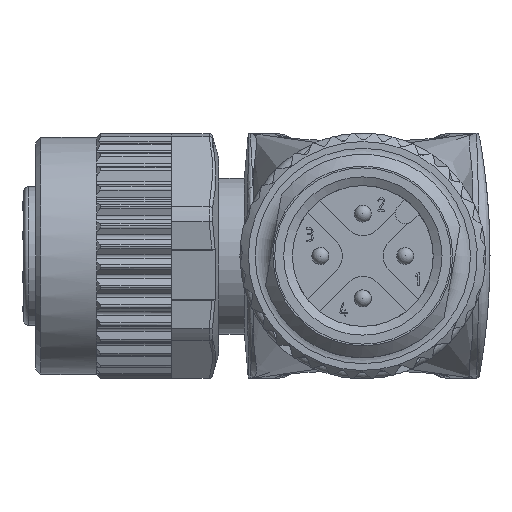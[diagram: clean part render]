
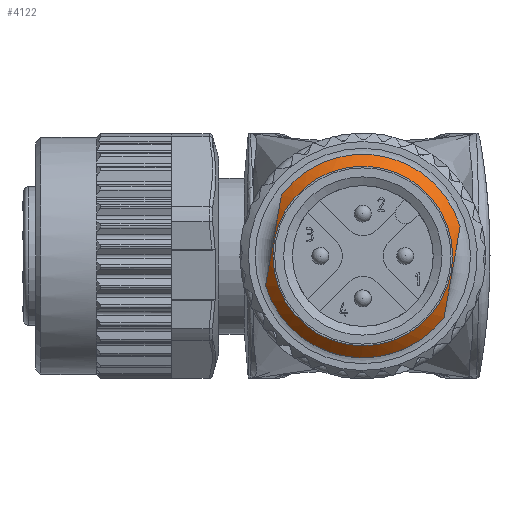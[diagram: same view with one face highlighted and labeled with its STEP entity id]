
A CAD part, front view. The second image highlights one B-rep face of the part: STEP entity #4122.
In plain terms, the highlighted conical face has half-angle 45 degrees and reference radius 6 mm.
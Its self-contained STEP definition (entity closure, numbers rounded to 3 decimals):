
#922=CONICAL_SURFACE('',#14144,6.,45.);
#1610=B_SPLINE_CURVE_WITH_KNOTS('',3,(#24446,#24447,#24448,#24449,#24450,
#24451),.UNSPECIFIED.,.F.,.F.,(4,2,4),(0.,0.5,1.),.UNSPECIFIED.);
#1611=B_SPLINE_CURVE_WITH_KNOTS('',3,(#24456,#24457,#24458,#24459,#24460,
#24461),.UNSPECIFIED.,.F.,.F.,(4,2,4),(0.,0.5,1.),.UNSPECIFIED.);
#4122=ADVANCED_FACE('',(#4756,#4757),#922,.T.);
#4756=FACE_BOUND('',#5404,.T.);
#4757=FACE_BOUND('',#5405,.T.);
#5404=EDGE_LOOP('',(#8242,#8243,#8244,#8245));
#5405=EDGE_LOOP('',(#8246));
#8242=ORIENTED_EDGE('',*,*,#12053,.F.);
#8243=ORIENTED_EDGE('',*,*,#12054,.F.);
#8244=ORIENTED_EDGE('',*,*,#12055,.F.);
#8245=ORIENTED_EDGE('',*,*,#12056,.F.);
#8246=ORIENTED_EDGE('',*,*,#12052,.F.);
#10339=VERTEX_POINT('',#24444);
#10340=VERTEX_POINT('',#24452);
#10341=VERTEX_POINT('',#24453);
#10342=VERTEX_POINT('',#24455);
#10343=VERTEX_POINT('',#24462);
#12052=EDGE_CURVE('',#10339,#10339,#13107,.T.);
#12053=EDGE_CURVE('',#10340,#10341,#1610,.T.);
#12054=EDGE_CURVE('',#10342,#10340,#13108,.T.);
#12055=EDGE_CURVE('',#10343,#10342,#1611,.T.);
#12056=EDGE_CURVE('',#10341,#10343,#13109,.T.);
#13107=CIRCLE('',#14140,5.3);
#13108=CIRCLE('',#14142,6.);
#13109=CIRCLE('',#14143,6.);
#14140=AXIS2_PLACEMENT_3D('',#24443,#16897,#16898);
#14142=AXIS2_PLACEMENT_3D('',#24454,#16901,#16902);
#14143=AXIS2_PLACEMENT_3D('',#24463,#16903,#16904);
#14144=AXIS2_PLACEMENT_3D('',#24464,#16905,#16906);
#16897=DIRECTION('',(0.,-1.,0.));
#16898=DIRECTION('',(-0.174,0.,-0.985));
#16901=DIRECTION('',(0.,1.,0.));
#16902=DIRECTION('',(-0.174,0.,-0.985));
#16903=DIRECTION('',(0.,1.,0.));
#16904=DIRECTION('',(-0.174,0.,-0.985));
#16905=DIRECTION('',(0.,1.,0.));
#16906=DIRECTION('',(-0.174,0.,-0.985));
#24443=CARTESIAN_POINT('',(0.,1.2,0.));
#24444=CARTESIAN_POINT('',(-0.92,1.2,-5.219));
#24446=CARTESIAN_POINT('',(-5.74,1.9,-1.746));
#24447=CARTESIAN_POINT('',(-5.591,1.511,-0.899));
#24448=CARTESIAN_POINT('',(-5.433,1.25,0.));
#24449=CARTESIAN_POINT('',(-5.105,1.25,1.855));
#24450=CARTESIAN_POINT('',(-4.947,1.51,2.755));
#24451=CARTESIAN_POINT('',(-4.797,1.9,3.604));
#24452=CARTESIAN_POINT('',(-5.74,1.9,-1.746));
#24453=CARTESIAN_POINT('',(-4.797,1.9,3.604));
#24454=CARTESIAN_POINT('',(0.,1.9,0.));
#24455=CARTESIAN_POINT('',(4.797,1.9,-3.604));
#24456=CARTESIAN_POINT('',(5.74,1.9,1.746));
#24457=CARTESIAN_POINT('',(5.591,1.511,0.899));
#24458=CARTESIAN_POINT('',(5.433,1.25,0.));
#24459=CARTESIAN_POINT('',(5.105,1.25,-1.855));
#24460=CARTESIAN_POINT('',(4.947,1.51,-2.755));
#24461=CARTESIAN_POINT('',(4.797,1.9,-3.604));
#24462=CARTESIAN_POINT('',(5.74,1.9,1.746));
#24463=CARTESIAN_POINT('',(0.,1.9,0.));
#24464=CARTESIAN_POINT('',(0.,1.9,0.));
